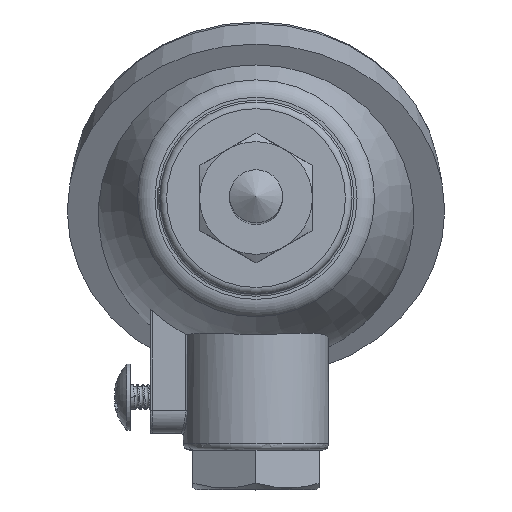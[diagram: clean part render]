
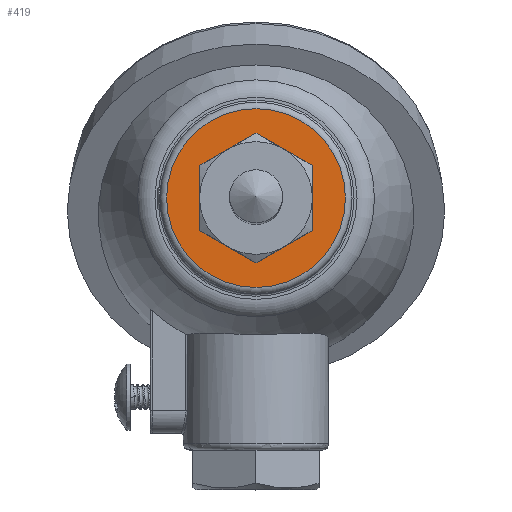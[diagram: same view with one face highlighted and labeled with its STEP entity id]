
A CAD part, top view. The second image highlights one B-rep face of the part: STEP entity #419.
In plain terms, the highlighted planar face has unit normal (0, 0, 1).
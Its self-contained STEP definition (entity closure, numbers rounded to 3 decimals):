
#38 = DIRECTION ( 'NONE',  ( 0., -1., 0. ) ) ;
#54 = CARTESIAN_POINT ( 'NONE',  ( 8.487, -4.9, -5. ) ) ;
#100 = VECTOR ( 'NONE', #2080, 1000. ) ;
#349 = DIRECTION ( 'NONE',  ( 0., 0., -1. ) ) ;
#419 = ADVANCED_FACE ( 'NONE', ( #2870, #5808 ), #4501, .F. ) ;
#596 = CARTESIAN_POINT ( 'NONE',  ( -8.487, 4.9, -5. ) ) ;
#728 = AXIS2_PLACEMENT_3D ( 'NONE', #6935, #349, #7641 ) ;
#1044 = CARTESIAN_POINT ( 'NONE',  ( 0., 0., -5. ) ) ;
#1300 = EDGE_CURVE ( 'NONE', #6892, #6892, #4717, .T. ) ;
#1441 = CARTESIAN_POINT ( 'NONE',  ( 0., 13.5, -5. ) ) ;
#1449 = EDGE_CURVE ( 'NONE', #5209, #2805, #5987, .T. ) ;
#1486 = CARTESIAN_POINT ( 'NONE',  ( 8.487, 4.9, -5. ) ) ;
#1638 = DIRECTION ( 'NONE',  ( 0.866, 0.5, 0. ) ) ;
#2080 = DIRECTION ( 'NONE',  ( -0.866, 0.5, 0. ) ) ;
#2727 = VERTEX_POINT ( 'NONE', #7377 ) ;
#2748 = VECTOR ( 'NONE', #6291, 1000. ) ;
#2805 = VERTEX_POINT ( 'NONE', #7491 ) ;
#2837 = ORIENTED_EDGE ( 'NONE', *, *, #4703, .F. ) ;
#2870 = FACE_BOUND ( 'NONE', #6181, .T. ) ;
#3023 = VERTEX_POINT ( 'NONE', #1486 ) ;
#3479 = DIRECTION ( 'NONE',  ( 0., 0., 1. ) ) ;
#3578 = VECTOR ( 'NONE', #38, 1000. ) ;
#3646 = EDGE_CURVE ( 'NONE', #3023, #3879, #6344, .T. ) ;
#3879 = VERTEX_POINT ( 'NONE', #5941 ) ;
#4501 = PLANE ( 'NONE',  #728 ) ;
#4658 = LINE ( 'NONE', #7087, #7243 ) ;
#4703 = EDGE_CURVE ( 'NONE', #3879, #5209, #6018, .T. ) ;
#4717 = CIRCLE ( 'NONE', #5600, 13.5 ) ;
#4987 = ORIENTED_EDGE ( 'NONE', *, *, #5584, .F. ) ;
#5065 = LINE ( 'NONE', #7494, #6769 ) ;
#5209 = VERTEX_POINT ( 'NONE', #5784 ) ;
#5304 = ORIENTED_EDGE ( 'NONE', *, *, #3646, .F. ) ;
#5584 = EDGE_CURVE ( 'NONE', #2727, #6874, #4658, .T. ) ;
#5600 = AXIS2_PLACEMENT_3D ( 'NONE', #1044, #3479, #5907 ) ;
#5747 = ORIENTED_EDGE ( 'NONE', *, *, #7288, .F. ) ;
#5784 = CARTESIAN_POINT ( 'NONE',  ( -8.487, 4.9, -5. ) ) ;
#5808 = FACE_OUTER_BOUND ( 'NONE', #7771, .T. ) ;
#5907 = DIRECTION ( 'NONE',  ( 0., 1., 0. ) ) ;
#5941 = CARTESIAN_POINT ( 'NONE',  ( 0., 9.8, -5. ) ) ;
#5987 = LINE ( 'NONE', #596, #3578 ) ;
#6018 = LINE ( 'NONE', #6739, #7363 ) ;
#6071 = ORIENTED_EDGE ( 'NONE', *, *, #6622, .F. ) ;
#6136 = DIRECTION ( 'NONE',  ( -0.866, -0.5, 0. ) ) ;
#6181 = EDGE_LOOP ( 'NONE', ( #4987, #5747, #6915, #2837, #5304, #6071 ) ) ;
#6291 = DIRECTION ( 'NONE',  ( 0., 1., 0. ) ) ;
#6344 = LINE ( 'NONE', #7379, #100 ) ;
#6622 = EDGE_CURVE ( 'NONE', #6874, #3023, #6884, .T. ) ;
#6739 = CARTESIAN_POINT ( 'NONE',  ( 0., 9.8, -5. ) ) ;
#6769 = VECTOR ( 'NONE', #6904, 1000. ) ;
#6874 = VERTEX_POINT ( 'NONE', #54 ) ;
#6884 = LINE ( 'NONE', #7475, #2748 ) ;
#6892 = VERTEX_POINT ( 'NONE', #1441 ) ;
#6904 = DIRECTION ( 'NONE',  ( 0.866, -0.5, 0. ) ) ;
#6915 = ORIENTED_EDGE ( 'NONE', *, *, #1449, .F. ) ;
#6935 = CARTESIAN_POINT ( 'NONE',  ( 0., 0., -5. ) ) ;
#7087 = CARTESIAN_POINT ( 'NONE',  ( 0., -9.8, -5. ) ) ;
#7243 = VECTOR ( 'NONE', #1638, 1000. ) ;
#7288 = EDGE_CURVE ( 'NONE', #2805, #2727, #5065, .T. ) ;
#7298 = ORIENTED_EDGE ( 'NONE', *, *, #1300, .T. ) ;
#7363 = VECTOR ( 'NONE', #6136, 1000. ) ;
#7377 = CARTESIAN_POINT ( 'NONE',  ( 0., -9.8, -5. ) ) ;
#7379 = CARTESIAN_POINT ( 'NONE',  ( 8.487, 4.9, -5. ) ) ;
#7475 = CARTESIAN_POINT ( 'NONE',  ( 8.487, -4.9, -5. ) ) ;
#7491 = CARTESIAN_POINT ( 'NONE',  ( -8.487, -4.9, -5. ) ) ;
#7494 = CARTESIAN_POINT ( 'NONE',  ( -8.487, -4.9, -5. ) ) ;
#7641 = DIRECTION ( 'NONE',  ( 0., 1., 0. ) ) ;
#7771 = EDGE_LOOP ( 'NONE', ( #7298 ) ) ;
